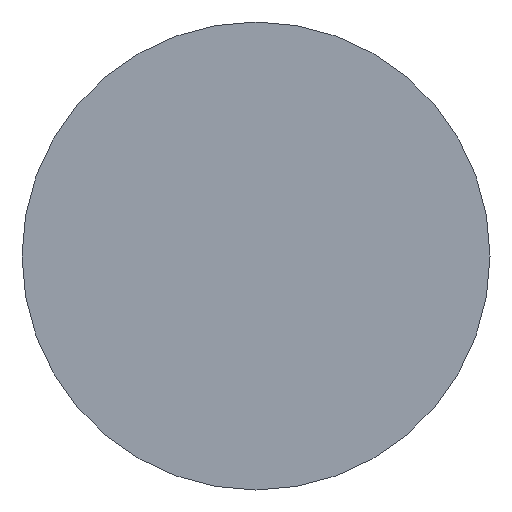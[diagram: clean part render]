
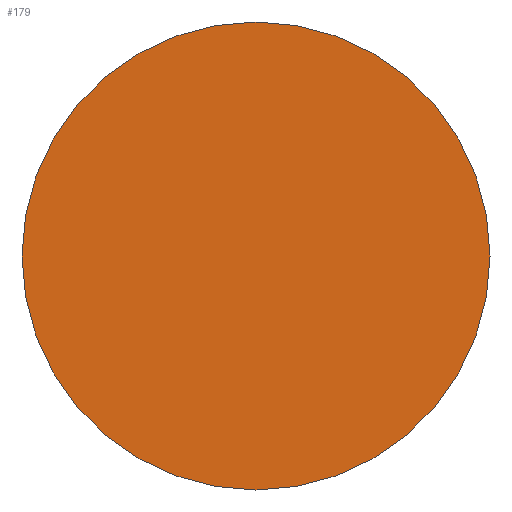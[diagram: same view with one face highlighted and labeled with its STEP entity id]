
A CAD part, left-side view. The second image highlights one B-rep face of the part: STEP entity #179.
In plain terms, the highlighted planar face has unit normal (-1, 0, 0).
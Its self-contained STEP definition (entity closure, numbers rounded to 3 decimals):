
#14 = ORIENTED_EDGE ( 'NONE', *, *, #155, .T. ) ;
#52 = EDGE_CURVE ( 'NONE', #53, #98, #216, .T. ) ;
#53 = VERTEX_POINT ( 'NONE', #249 ) ;
#61 = CARTESIAN_POINT ( 'NONE',  ( 0., 0., 0. ) ) ;
#62 = PLANE ( 'NONE',  #130 ) ;
#71 = DIRECTION ( 'NONE',  ( 1., 0., 0. ) ) ;
#88 = CIRCLE ( 'NONE', #265, 1.5 ) ;
#91 = FACE_OUTER_BOUND ( 'NONE', #95, .T. ) ;
#94 = DIRECTION ( 'NONE',  ( 0., 0., -1. ) ) ;
#95 = EDGE_LOOP ( 'NONE', ( #14, #242 ) ) ;
#98 = VERTEX_POINT ( 'NONE', #107 ) ;
#107 = CARTESIAN_POINT ( 'NONE',  ( 0., 0., 1.5 ) ) ;
#122 = DIRECTION ( 'NONE',  ( 0., 0., 1. ) ) ;
#130 = AXIS2_PLACEMENT_3D ( 'NONE', #61, #71, #94 ) ;
#155 = EDGE_CURVE ( 'NONE', #98, #53, #88, .T. ) ;
#179 = ADVANCED_FACE ( 'NONE', ( #91 ), #62, .F. ) ;
#188 = DIRECTION ( 'NONE',  ( -1., 0., 0. ) ) ;
#216 = CIRCLE ( 'NONE', #275, 1.5 ) ;
#221 = CARTESIAN_POINT ( 'NONE',  ( 0., 0., 0. ) ) ;
#236 = DIRECTION ( 'NONE',  ( 0., 0., 1. ) ) ;
#242 = ORIENTED_EDGE ( 'NONE', *, *, #52, .T. ) ;
#246 = CARTESIAN_POINT ( 'NONE',  ( 0., 0., 0. ) ) ;
#247 = DIRECTION ( 'NONE',  ( -1., 0., 0. ) ) ;
#249 = CARTESIAN_POINT ( 'NONE',  ( 0., 0., -1.5 ) ) ;
#265 = AXIS2_PLACEMENT_3D ( 'NONE', #246, #247, #236 ) ;
#275 = AXIS2_PLACEMENT_3D ( 'NONE', #221, #188, #122 ) ;
